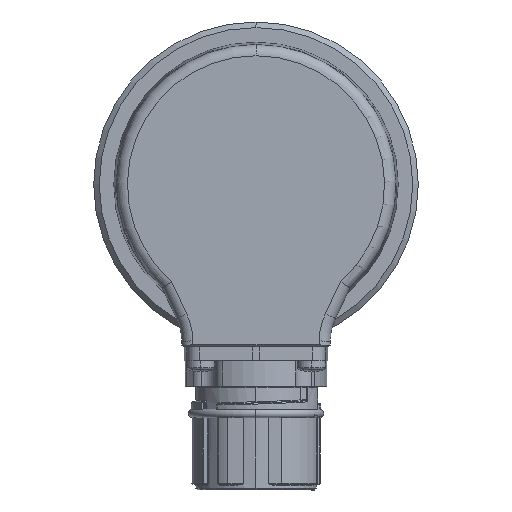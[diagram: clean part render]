
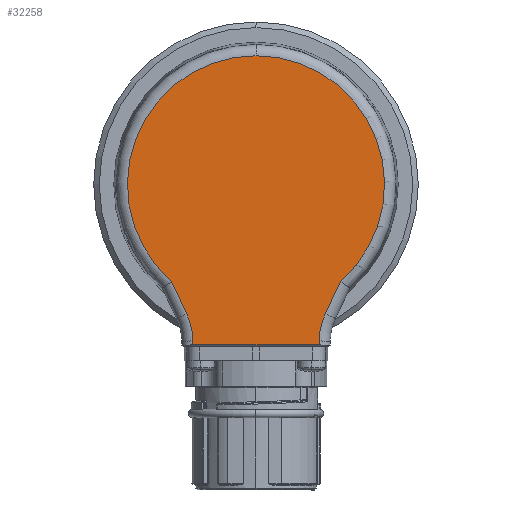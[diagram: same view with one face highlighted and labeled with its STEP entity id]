
A CAD part, left-side view. The second image highlights one B-rep face of the part: STEP entity #32258.
In plain terms, the highlighted planar face has unit normal (-1, 0, 0).
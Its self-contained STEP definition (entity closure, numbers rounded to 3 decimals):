
#266 = ORIENTED_EDGE ( 'NONE', *, *, #7817, .T. ) ;
#713 = CIRCLE ( 'NONE', #15097, 12. ) ;
#1057 = CARTESIAN_POINT ( 'NONE',  ( -21., 11.752, -0.205 ) ) ;
#1201 = CIRCLE ( 'NONE', #6181, 22.972 ) ;
#1795 = PLANE ( 'NONE',  #34337 ) ;
#1832 = CARTESIAN_POINT ( 'NONE',  ( -21., 12.39, -23.112 ) ) ;
#2092 = DIRECTION ( 'NONE',  ( -1., 0., 0. ) ) ;
#2700 = CARTESIAN_POINT ( 'NONE',  ( -21., 0., 22.972 ) ) ;
#3193 = ORIENTED_EDGE ( 'NONE', *, *, #12007, .T. ) ;
#3289 = EDGE_CURVE ( 'NONE', #33298, #19047, #5096, .T. ) ;
#3459 = VECTOR ( 'NONE', #13824, 1000. ) ;
#4289 = LINE ( 'NONE', #20913, #22405 ) ;
#4504 = LINE ( 'NONE', #41047, #3459 ) ;
#5096 = CIRCLE ( 'NONE', #9006, 12. ) ;
#5235 = EDGE_CURVE ( 'NONE', #16746, #5818, #713, .T. ) ;
#5818 = VERTEX_POINT ( 'NONE', #18879 ) ;
#6181 = AXIS2_PLACEMENT_3D ( 'NONE', #22498, #2092, #25928 ) ;
#6302 = ORIENTED_EDGE ( 'NONE', *, *, #7503, .T. ) ;
#6909 = CARTESIAN_POINT ( 'NONE',  ( -21., 12.39, -23.112 ) ) ;
#7503 = EDGE_CURVE ( 'NONE', #13923, #16746, #15237, .T. ) ;
#7509 = CIRCLE ( 'NONE', #26561, 22.972 ) ;
#7817 = EDGE_CURVE ( 'NONE', #18422, #33298, #4504, .T. ) ;
#8684 = DIRECTION ( 'NONE',  ( 0., 0., 1. ) ) ;
#9006 = AXIS2_PLACEMENT_3D ( 'NONE', #11633, #35446, #15043 ) ;
#10296 = DIRECTION ( 'NONE',  ( 1., 0., 0. ) ) ;
#10356 = DIRECTION ( 'NONE',  ( 0., 0., 1. ) ) ;
#10624 = ORIENTED_EDGE ( 'NONE', *, *, #14623, .T. ) ;
#11633 = CARTESIAN_POINT ( 'NONE',  ( -21., -23.266, -28.183 ) ) ;
#12007 = EDGE_CURVE ( 'NONE', #18823, #16657, #7509, .T. ) ;
#13424 = DIRECTION ( 'NONE',  ( -1., 0., 0. ) ) ;
#13824 = DIRECTION ( 'NONE',  ( 0., -0.017, 1. ) ) ;
#13923 = VERTEX_POINT ( 'NONE', #23316 ) ;
#14173 = VECTOR ( 'NONE', #35722, 1000. ) ;
#14623 = EDGE_CURVE ( 'NONE', #25091, #18422, #4289, .T. ) ;
#15043 = DIRECTION ( 'NONE',  ( 0., 0., 1. ) ) ;
#15097 = AXIS2_PLACEMENT_3D ( 'NONE', #30713, #10296, #10356 ) ;
#15237 = LINE ( 'NONE', #1832, #14173 ) ;
#16487 = EDGE_CURVE ( 'NONE', #19047, #18823, #20153, .T. ) ;
#16657 = VERTEX_POINT ( 'NONE', #2700 ) ;
#16746 = VERTEX_POINT ( 'NONE', #6909 ) ;
#18422 = VERTEX_POINT ( 'NONE', #20440 ) ;
#18823 = VERTEX_POINT ( 'NONE', #37745 ) ;
#18879 = CARTESIAN_POINT ( 'NONE',  ( -21., 11.268, -27.974 ) ) ;
#19047 = VERTEX_POINT ( 'NONE', #19476 ) ;
#19476 = CARTESIAN_POINT ( 'NONE',  ( -21., -12.39, -23.112 ) ) ;
#20147 = ORIENTED_EDGE ( 'NONE', *, *, #26181, .T. ) ;
#20153 = LINE ( 'NONE', #21337, #44168 ) ;
#20440 = CARTESIAN_POINT ( 'NONE',  ( -21., -11.255, -28.695 ) ) ;
#20913 = CARTESIAN_POINT ( 'NONE',  ( -21., -11.25, -28.695 ) ) ;
#21337 = CARTESIAN_POINT ( 'NONE',  ( -21., -14.953, -17.615 ) ) ;
#22405 = VECTOR ( 'NONE', #41330, 1000. ) ;
#22498 = CARTESIAN_POINT ( 'NONE',  ( -21., 0., 0. ) ) ;
#23316 = CARTESIAN_POINT ( 'NONE',  ( -21., 15.091, -17.32 ) ) ;
#25091 = VERTEX_POINT ( 'NONE', #40965 ) ;
#25100 = EDGE_LOOP ( 'NONE', ( #20147, #10624, #266, #39589, #36700, #3193, #38816, #6302, #33961 ) ) ;
#25928 = DIRECTION ( 'NONE',  ( 0., 0., 1. ) ) ;
#26181 = EDGE_CURVE ( 'NONE', #5818, #25091, #31058, .T. ) ;
#26420 = FACE_OUTER_BOUND ( 'NONE', #25100, .T. ) ;
#26561 = AXIS2_PLACEMENT_3D ( 'NONE', #33824, #13424, #37260 ) ;
#28347 = DIRECTION ( 'NONE',  ( 0., -0.017, -1. ) ) ;
#28946 = CARTESIAN_POINT ( 'NONE',  ( -21., 0., 0. ) ) ;
#29091 = DIRECTION ( 'NONE',  ( 1., 0., 0. ) ) ;
#30713 = CARTESIAN_POINT ( 'NONE',  ( -21., 23.266, -28.183 ) ) ;
#31058 = LINE ( 'NONE', #1057, #32111 ) ;
#32111 = VECTOR ( 'NONE', #28347, 1000. ) ;
#32258 = ADVANCED_FACE ( 'NONE', ( #26420 ), #1795, .F. ) ;
#32536 = DIRECTION ( 'NONE',  ( 0., -0.423, 0.906 ) ) ;
#33298 = VERTEX_POINT ( 'NONE', #35857 ) ;
#33824 = CARTESIAN_POINT ( 'NONE',  ( -21., 0., 0. ) ) ;
#33961 = ORIENTED_EDGE ( 'NONE', *, *, #5235, .T. ) ;
#34337 = AXIS2_PLACEMENT_3D ( 'NONE', #28946, #29091, #8684 ) ;
#34697 = EDGE_CURVE ( 'NONE', #16657, #13923, #1201, .T. ) ;
#35446 = DIRECTION ( 'NONE',  ( 1., 0., 0. ) ) ;
#35722 = DIRECTION ( 'NONE',  ( 0., -0.423, -0.906 ) ) ;
#35857 = CARTESIAN_POINT ( 'NONE',  ( -21., -11.268, -27.974 ) ) ;
#36700 = ORIENTED_EDGE ( 'NONE', *, *, #16487, .T. ) ;
#37260 = DIRECTION ( 'NONE',  ( 0., 0., 1. ) ) ;
#37745 = CARTESIAN_POINT ( 'NONE',  ( -21., -15.091, -17.32 ) ) ;
#38816 = ORIENTED_EDGE ( 'NONE', *, *, #34697, .T. ) ;
#39589 = ORIENTED_EDGE ( 'NONE', *, *, #3289, .T. ) ;
#40965 = CARTESIAN_POINT ( 'NONE',  ( -21., 11.255, -28.695 ) ) ;
#41047 = CARTESIAN_POINT ( 'NONE',  ( -21., -11.752, -0.205 ) ) ;
#41330 = DIRECTION ( 'NONE',  ( 0., -1., 0. ) ) ;
#44168 = VECTOR ( 'NONE', #32536, 1000. ) ;
